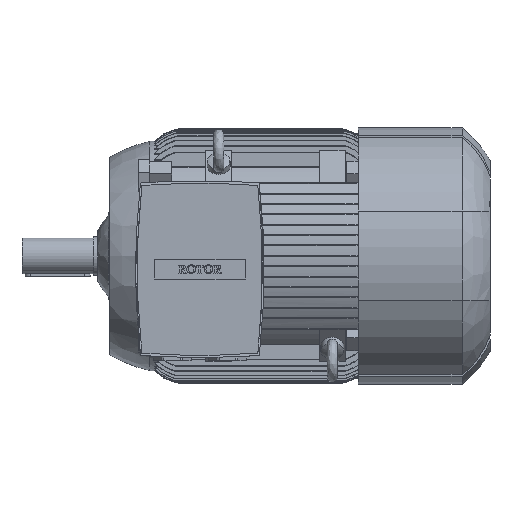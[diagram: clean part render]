
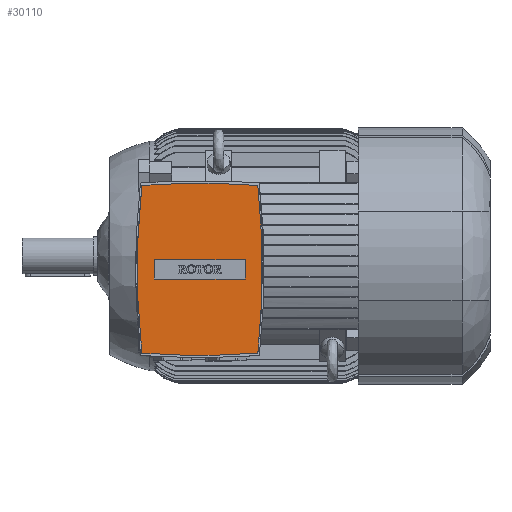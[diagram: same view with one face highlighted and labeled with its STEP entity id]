
A CAD part, top view. The second image highlights one B-rep face of the part: STEP entity #30110.
In plain terms, the highlighted planar face has unit normal (0, 0, 1).
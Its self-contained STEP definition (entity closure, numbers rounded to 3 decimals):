
#1605 = VERTEX_POINT ( 'NONE', #25718 ) ;
#1614 = VERTEX_POINT ( 'NONE', #25731 ) ;
#4511 = AXIS2_PLACEMENT_3D ( 'NONE', #6869, #6870, #6871 ) ;
#5910 = FACE_OUTER_BOUND ( 'NONE', #20088, .T. ) ;
#5914 = FACE_BOUND ( 'NONE', #20089, .T. ) ;
#6862 = PLANE ( 'NONE',  #4511 ) ;
#6869 = CARTESIAN_POINT ( 'NONE',  ( 77., -21., 315. ) ) ;
#6870 = DIRECTION ( 'NONE',  ( 0., 0., 1. ) ) ;
#6871 = DIRECTION ( 'NONE',  ( 1., 0., 0. ) ) ;
#18217 = AXIS2_PLACEMENT_3D ( 'NONE', #37267, #37268, #37269 ) ;
#18219 = AXIS2_PLACEMENT_3D ( 'NONE', #37285, #37286, #37287 ) ;
#18369 = AXIS2_PLACEMENT_3D ( 'NONE', #44699, #44700, #44701 ) ;
#18385 = AXIS2_PLACEMENT_3D ( 'NONE', #45271, #45272, #45273 ) ;
#20088 = EDGE_LOOP ( 'NONE', ( #20148, #20149, #20124, #20125 ) ) ;
#20089 = EDGE_LOOP ( 'NONE', ( #20126, #20127, #20128, #20129 ) ) ;
#20124 = ORIENTED_EDGE ( 'NONE', *, *, #42659, .F. ) ;
#20125 = ORIENTED_EDGE ( 'NONE', *, *, #43571, .F. ) ;
#20126 = ORIENTED_EDGE ( 'NONE', *, *, #43449, .T. ) ;
#20127 = ORIENTED_EDGE ( 'NONE', *, *, #43498, .T. ) ;
#20128 = ORIENTED_EDGE ( 'NONE', *, *, #42762, .T. ) ;
#20129 = ORIENTED_EDGE ( 'NONE', *, *, #43458, .T. ) ;
#20148 = ORIENTED_EDGE ( 'NONE', *, *, #42639, .F. ) ;
#20149 = ORIENTED_EDGE ( 'NONE', *, *, #43431, .F. ) ;
#20831 = VERTEX_POINT ( 'NONE', #35778 ) ;
#20832 = VERTEX_POINT ( 'NONE', #35780 ) ;
#20833 = VERTEX_POINT ( 'NONE', #35783 ) ;
#20834 = VERTEX_POINT ( 'NONE', #35785 ) ;
#25718 = CARTESIAN_POINT ( 'NONE',  ( -12.345, 108.217, 315. ) ) ;
#25731 = CARTESIAN_POINT ( 'NONE',  ( 147., -6., 315. ) ) ;
#26053 = CIRCLE ( 'NONE', #18217, 1217.46 ) ;
#26092 = CIRCLE ( 'NONE', #18219, 1217.46 ) ;
#26265 = LINE ( 'NONE', #37482, #26276 ) ;
#26276 = VECTOR ( 'NONE', #37490, 1000. ) ;
#30110 = ADVANCED_FACE ( 'NONE', ( #5910, #5914 ), #6862, .T. ) ;
#35778 = CARTESIAN_POINT ( 'NONE',  ( -12.345, -150.217, 315. ) ) ;
#35780 = CARTESIAN_POINT ( 'NONE',  ( 147., -36., 315. ) ) ;
#35783 = CARTESIAN_POINT ( 'NONE',  ( 7., -36., 315. ) ) ;
#35785 = CARTESIAN_POINT ( 'NONE',  ( 7., -6., 315. ) ) ;
#37267 = CARTESIAN_POINT ( 'NONE',  ( 77., -1105.96, 315. ) ) ;
#37268 = DIRECTION ( 'NONE',  ( 0., 0., -1. ) ) ;
#37269 = DIRECTION ( 'NONE',  ( -1., 0., 0. ) ) ;
#37285 = CARTESIAN_POINT ( 'NONE',  ( 77., 1063.96, 315. ) ) ;
#37286 = DIRECTION ( 'NONE',  ( 0., 0., -1. ) ) ;
#37287 = DIRECTION ( 'NONE',  ( -1., 0., 0. ) ) ;
#37482 = CARTESIAN_POINT ( 'NONE',  ( 77., -36., 315. ) ) ;
#37490 = DIRECTION ( 'NONE',  ( -1., 0., 0. ) ) ;
#42306 = CIRCLE ( 'NONE', #18369, 1170.4 ) ;
#42327 = LINE ( 'NONE', #44774, #42332 ) ;
#42332 = VECTOR ( 'NONE', #44775, 1000. ) ;
#42353 = LINE ( 'NONE', #44792, #42358 ) ;
#42358 = VECTOR ( 'NONE', #44793, 1000. ) ;
#42475 = LINE ( 'NONE', #44906, #42481 ) ;
#42481 = VECTOR ( 'NONE', #44907, 1000. ) ;
#42639 = EDGE_CURVE ( 'NONE', #1605, #44660, #26053, .T. ) ;
#42657 = CIRCLE ( 'NONE', #18385, 1170.4 ) ;
#42659 = EDGE_CURVE ( 'NONE', #44663, #20831, #26092, .T. ) ;
#42762 = EDGE_CURVE ( 'NONE', #20832, #20833, #26265, .T. ) ;
#43431 = EDGE_CURVE ( 'NONE', #20831, #1605, #42306, .T. ) ;
#43449 = EDGE_CURVE ( 'NONE', #20834, #1614, #42327, .T. ) ;
#43458 = EDGE_CURVE ( 'NONE', #20833, #20834, #42353, .T. ) ;
#43498 = EDGE_CURVE ( 'NONE', #1614, #20832, #42475, .T. ) ;
#43571 = EDGE_CURVE ( 'NONE', #44660, #44663, #42657, .T. ) ;
#44660 = VERTEX_POINT ( 'NONE', #45562 ) ;
#44663 = VERTEX_POINT ( 'NONE', #45563 ) ;
#44699 = CARTESIAN_POINT ( 'NONE',  ( 1150.9, -21., 315. ) ) ;
#44700 = DIRECTION ( 'NONE',  ( 0., 0., -1. ) ) ;
#44701 = DIRECTION ( 'NONE',  ( -1., 0., 0. ) ) ;
#44774 = CARTESIAN_POINT ( 'NONE',  ( 77., -6., 315. ) ) ;
#44775 = DIRECTION ( 'NONE',  ( 1., 0., 0. ) ) ;
#44792 = CARTESIAN_POINT ( 'NONE',  ( 7., -21., 315. ) ) ;
#44793 = DIRECTION ( 'NONE',  ( 0., 1., 0. ) ) ;
#44906 = CARTESIAN_POINT ( 'NONE',  ( 147., -21., 315. ) ) ;
#44907 = DIRECTION ( 'NONE',  ( 0., -1., 0. ) ) ;
#45271 = CARTESIAN_POINT ( 'NONE',  ( -996.9, -21., 315. ) ) ;
#45272 = DIRECTION ( 'NONE',  ( 0., 0., -1. ) ) ;
#45273 = DIRECTION ( 'NONE',  ( -1., 0., 0. ) ) ;
#45562 = CARTESIAN_POINT ( 'NONE',  ( 166.345, 108.217, 315. ) ) ;
#45563 = CARTESIAN_POINT ( 'NONE',  ( 166.345, -150.217, 315. ) ) ;
